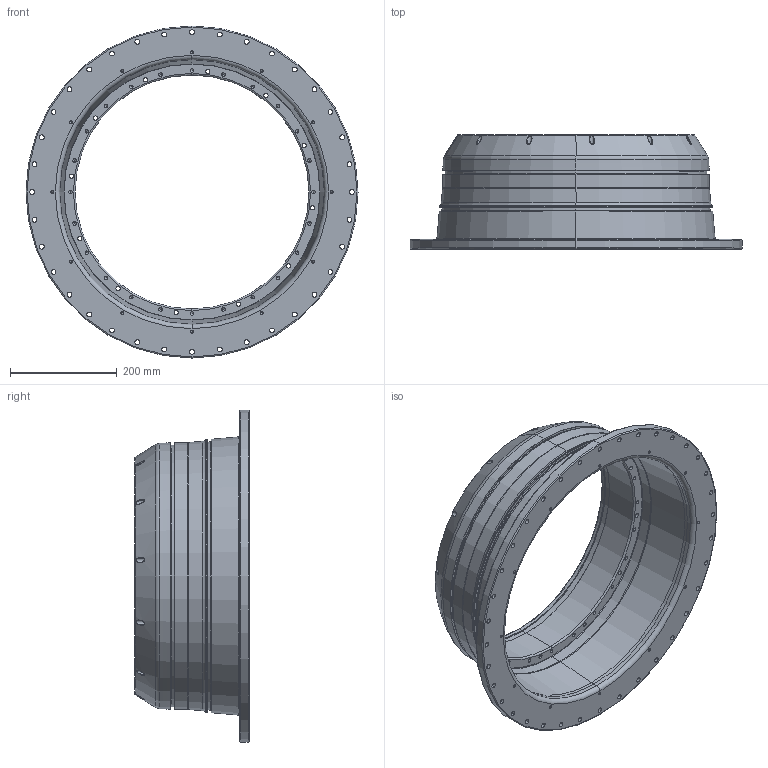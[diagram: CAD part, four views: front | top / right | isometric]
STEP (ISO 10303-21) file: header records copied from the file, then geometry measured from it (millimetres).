
FILE_DESCRIPTION(('CATIA V5 STEP Exchange','CAx-IF Rec.Pracs.--- Composite Materials ---3.4---2017-06-13'),'2;1');
FILE_NAME('C:\Users\PM610867\AppData\Local\ST-WORK_R32_PROD\Liasse-PDF\IEM_PEPSI_CEG_DEF_K_1229_212-VIROLE_INTER_TUBE_INTERM_COTE_CONDENSATEUR_-C.stp','2025-03-31T12:19:42+00:00',('none'),('none'),'CATIA Version 5-6 Release 2022 SP2','CATIA V5 STEP AP203 v2','none');
FILE_SCHEMA(('CONFIG_CONTROL_DESIGN'));
Length unit declared in the file: millimetre
Products named in the file (1): IEM PEPSI CEG DEF K 1229 212
Bounding box: 623 x 214.66 x 623 mm (x, y, z)
Volume: 6652274 mm3; surface area: 985303.9 mm2
Topology: 1 solids, 1 shells, 390 faces, 948 edges, 528 vertices
Faces by surface type: cylinder 182, cone 120, torus 58, bspline 24, plane 6
Entity records: 17350 total; most frequent: CARTESIAN_POINT 9460, ORIENTED_EDGE 1752, DIRECTION 1170, EDGE_CURVE 876, AXIS2_PLACEMENT_3D 686, EDGE_LOOP 528, VERTEX_POINT 528, CIRCLE 502
